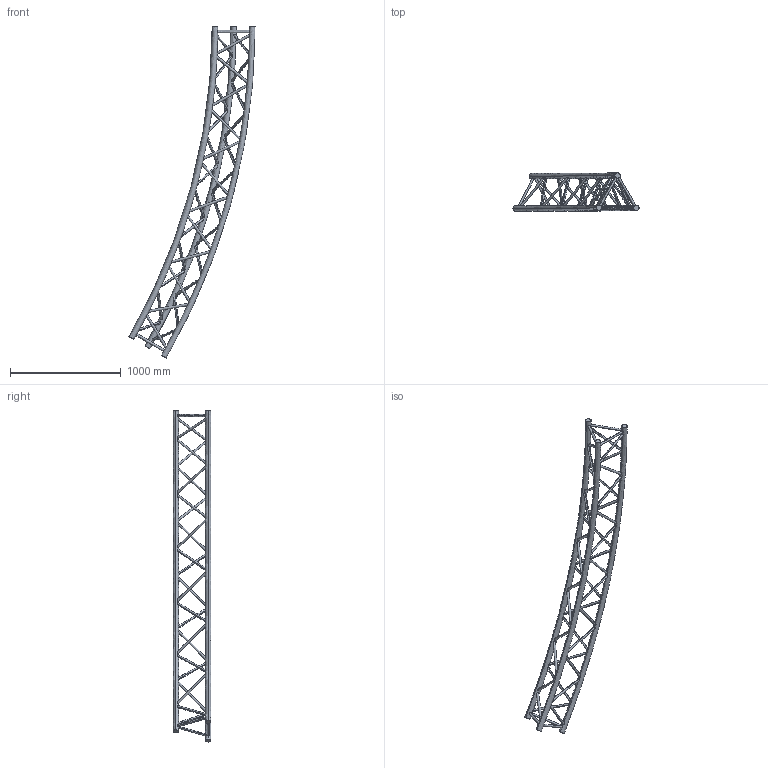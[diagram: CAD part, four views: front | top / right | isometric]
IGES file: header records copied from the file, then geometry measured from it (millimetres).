
Start section: SolidWorks IGES file using analytic representation for surfaces
Global section: file name: K:\BIBLIO\asd_biblio\SX390\Cercles\SXC39PH\SXC391200PH\SXC391200PH.IGS; native system: SolidWorks 2009; preprocessor: SolidWorks 2009; author: des3; date: 091021.132917; units: millimetre
Bounding box: 1139 x 341.85 x 3000 mm (x, y, z)
Surface area: 2324140 mm2 (no closed solid volume)
Topology: 0 solids, 0 shells, 96 faces, 6820 edges, 6820 vertices
Faces by surface type: revolution 84, bspline 12
